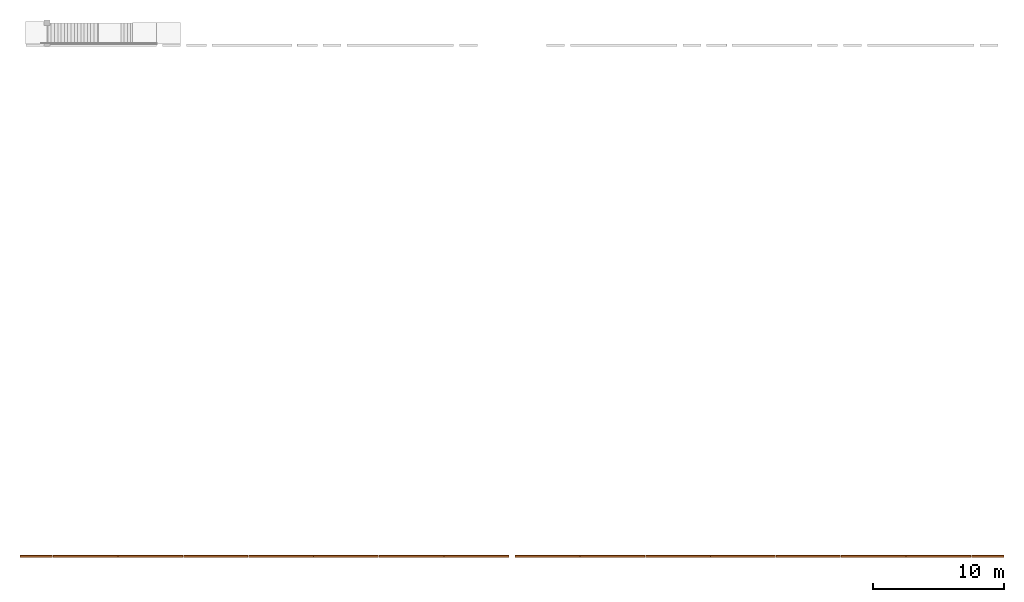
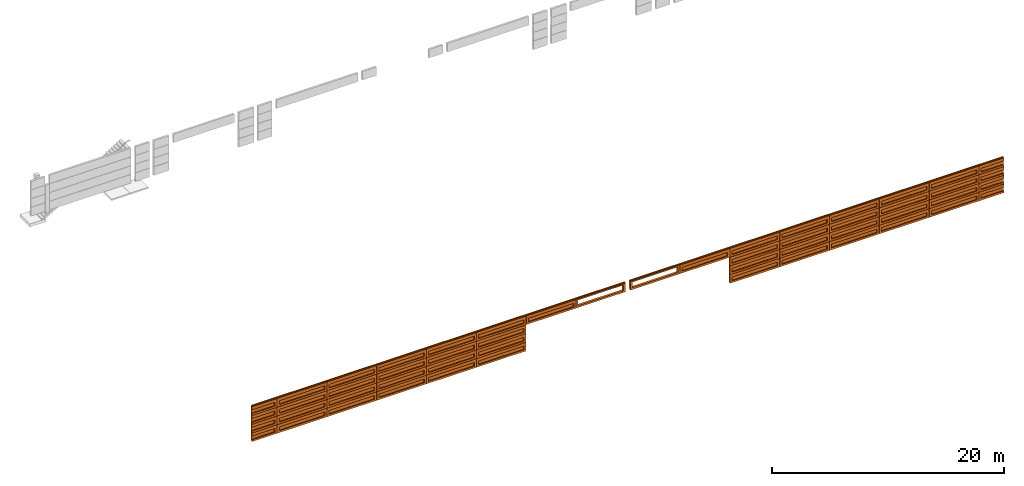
# One storey, part 5 of 5: 52 proxies.
"""IFC2X3 building model written with IfcOpenShell, lengths in millimetres."""

from ifc_helpers import new_model, entity, si_unit, converted_unit, derived_unit, direction, frame, origin, place, context, subcontext, project, spatial, faceted_brep, source, transform, mapped, material, type_object, type_shapes, element, save


model = new_model("IFC2X3")

# Units and contexts
model_context = context("Model", 3, precision=0.01, world=origin(), true_north=direction((6.12303176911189e-17, 1.0)))
body_context = subcontext(model_context, "Body", "Model", "MODEL_VIEW")
ifc_project = project(units=[si_unit("LENGTHUNIT", "METRE", prefix="MILLI"), si_unit("AREAUNIT", "SQUARE_METRE"), si_unit("VOLUMEUNIT", "CUBIC_METRE"), converted_unit("PLANEANGLEUNIT", "DEGREE", entity("IfcRatioMeasure", 0.0174532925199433), si_unit("PLANEANGLEUNIT", "RADIAN"), dimensions=[0, 0, 0, 0, 0, 0, 0]), si_unit("MASSUNIT", "GRAM", prefix="KILO"), derived_unit("MASSDENSITYUNIT", [(si_unit("MASSUNIT", "GRAM", prefix="KILO"), 1), (si_unit("LENGTHUNIT", "METRE"), -3)]), derived_unit("MOMENTOFINERTIAUNIT", [(si_unit("LENGTHUNIT", "METRE"), 4)]), si_unit("TIMEUNIT", "SECOND"), si_unit("FREQUENCYUNIT", "HERTZ"), si_unit("THERMODYNAMICTEMPERATUREUNIT", "DEGREE_CELSIUS"), derived_unit("THERMALTRANSMITTANCEUNIT", [(si_unit("MASSUNIT", "GRAM", prefix="KILO"), 1), (si_unit("THERMODYNAMICTEMPERATUREUNIT", "KELVIN"), -1), (si_unit("TIMEUNIT", "SECOND"), -3)]), derived_unit("VOLUMETRICFLOWRATEUNIT", [(si_unit("LENGTHUNIT", "METRE"), 3), (si_unit("TIMEUNIT", "SECOND"), -1)]), si_unit("ELECTRICCURRENTUNIT", "AMPERE"), si_unit("ELECTRICVOLTAGEUNIT", "VOLT"), si_unit("POWERUNIT", "WATT"), si_unit("FORCEUNIT", "NEWTON", prefix="KILO"), si_unit("ILLUMINANCEUNIT", "LUX"), si_unit("LUMINOUSFLUXUNIT", "LUMEN"), si_unit("LUMINOUSINTENSITYUNIT", "CANDELA"), derived_unit("USERDEFINED", [(si_unit("MASSUNIT", "GRAM", prefix="KILO"), -1), (si_unit("LENGTHUNIT", "METRE"), -2), (si_unit("TIMEUNIT", "SECOND"), 3), (si_unit("LUMINOUSFLUXUNIT", "LUMEN"), 1)]), derived_unit("LINEARVELOCITYUNIT", [(si_unit("LENGTHUNIT", "METRE"), 1), (si_unit("TIMEUNIT", "SECOND"), -1)]), si_unit("PRESSUREUNIT", "PASCAL"), derived_unit("USERDEFINED", [(si_unit("LENGTHUNIT", "METRE"), -2), (si_unit("MASSUNIT", "GRAM", prefix="KILO"), 1), (si_unit("TIMEUNIT", "SECOND"), -2)]), derived_unit("LINEARFORCEUNIT", [(si_unit("MASSUNIT", "GRAM", prefix="KILO"), 1), (si_unit("LENGTHUNIT", "METRE"), 1), (si_unit("TIMEUNIT", "SECOND"), -2), (si_unit("LENGTHUNIT", "METRE"), -1)]), derived_unit("PLANARFORCEUNIT", [(si_unit("MASSUNIT", "GRAM", prefix="KILO"), 1), (si_unit("LENGTHUNIT", "METRE"), 1), (si_unit("TIMEUNIT", "SECOND"), -2), (si_unit("LENGTHUNIT", "METRE"), -2)])], contexts=[model_context])

# Site, building, storey
site_placement = place(None, frame((10627.5135316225, 21939.0796949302, 0.0)))
site = spatial("IfcSite", under=ifc_project, at=site_placement, Name="Default", CompositionType="ELEMENT")
building_placement = place(site_placement, origin())
building = spatial("IfcBuilding", under=site, at=building_placement, CompositionType="ELEMENT")
storey_placement = place(building_placement, origin())
storey = spatial("IfcBuildingStorey", under=building, at=storey_placement, Name="RDC", CompositionType="ELEMENT", Elevation=0.0)

# Proxies
ifc_material = material(Name="Concrete, Precast Smooth, Light Grey")
building_element_proxy_type_1 = type_object("IfcBuildingElementProxyType", Name="Panneaux fille 18 ajoures:Panneaux fille 18 ajoures", PredefinedType="NOTDEFINED", material=ifc_material)
shared_shape_1 = source(origin(), body_context, "Body", "Brep", [
    faceted_brep([(2469.0, -101.438076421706, -51.6077760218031), (2469.0, 0.0, -60.0), (2469.0, 0.0, 849.947802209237), (2469.0, -111.86949138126, 859.004887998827), (2469.0, -132.472854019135, 910.0), (2469.0, -205.0, 910.0), (2469.0, -205.0, 0.0), (2469.0, -122.139961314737, 0.0), (-2469.0, -101.438076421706, -51.6077760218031), (-2469.0, -122.139961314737, 0.0), (-2469.0, -205.0, 0.0), (-2469.0, -205.0, 910.0), (-2469.0, -132.472854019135, 910.0), (-2469.0, -111.86949138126, 859.004887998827), (-2469.0, 0.0, 849.947802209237), (-2469.0, 0.0, -60.0), (2266.0, 0.0, 711.195062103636), (-2247.406298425, 0.0, 711.195062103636), (-2247.406298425, 0.0, 138.918268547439), (2266.0, 0.0, 138.918268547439), (-2208.456298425, -205.0, 711.195062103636), (2227.05, -205.0, 711.195062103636), (2227.05, -205.0, 138.918268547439), (-2208.456298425, -205.0, 138.918268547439)], [[[0, 1, 2, 3, 4, 5, 6, 7]], [[8, 9, 10, 11, 12, 13, 14, 15]], [[2, 1, 15, 14], [16, 17, 18, 19]], [[3, 2, 14, 13]], [[4, 3, 13, 12]], [[5, 4, 12, 11]], [[6, 5, 11, 10], [20, 21, 22, 23]], [[7, 6, 10, 9]], [[0, 7, 9, 8]], [[1, 0, 8, 15]], [[20, 17, 16, 21]], [[22, 19, 18, 23]], [[21, 16, 19, 22]], [[17, 20, 23, 18]]]),
])
type_shapes(building_element_proxy_type_1, [shared_shape_1])
proxy_1_placement = place(storey_placement, frame((23878.4864683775, -22365.8040495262, 2960.0), z_axis=(0.0, 0.0, 1.0), x_axis=(-1.0, 0.0, 0.0)))
element("IfcBuildingElementProxy", 1, at=proxy_1_placement, inside=storey, type_object=building_element_proxy_type_1, material=ifc_material, Name="Panneaux fille 18 ajoures:Panneaux fille 18 ajoures", ObjectType="Panneaux fille 18 ajoures:Panneaux fille 18 ajoures", context=body_context, shape_type="MappedRepresentation", body=[
    mapped(shared_shape_1, transform((0.0, 0.0, 0.0), scale=1.0)),
])
building_element_proxy_type_2 = type_object("IfcBuildingElementProxyType", Name="Panneaux fille 18:Panneaux fille 18", PredefinedType="NOTDEFINED", material=ifc_material)
shared_shape_2 = source(origin(), body_context, "Body", "Brep", [
    faceted_brep([(2469.0, -101.438076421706, -51.6077760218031), (2469.0, 0.0, -60.0), (2469.0, 0.0, 849.947802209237), (2469.0, -111.86949138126, 859.004887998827), (2469.0, -132.472854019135, 910.0), (2469.0, -205.0, 910.0), (2469.0, -205.0, 0.0), (2469.0, -122.139961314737, 0.0), (-2469.0, -101.438076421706, -51.6077760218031), (-2469.0, -122.139961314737, 0.0), (-2469.0, -205.0, 0.0), (-2469.0, -205.0, 910.0), (-2469.0, -132.472854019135, 910.0), (-2469.0, -111.86949138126, 859.004887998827), (-2469.0, 0.0, 849.947802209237), (-2469.0, 0.0, -60.0), (2266.0, 0.0, 540.228023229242), (-2266.21685996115, 0.0, 540.228023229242), (-2266.21685996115, 0.0, 138.918268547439), (2266.0, 0.0, 138.918268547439), (2247.39157001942, -97.9391051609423, 540.228023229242), (-2247.60842998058, -97.9391051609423, 540.228023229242), (-2247.60842998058, -97.9391051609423, 138.918268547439), (2247.39157001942, -97.9391051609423, 138.918268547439)], [[[0, 1, 2, 3, 4, 5, 6, 7]], [[8, 9, 10, 11, 12, 13, 14, 15]], [[2, 1, 15, 14], [16, 17, 18, 19]], [[3, 2, 14, 13]], [[4, 3, 13, 12]], [[5, 4, 12, 11]], [[6, 5, 11, 10]], [[7, 6, 10, 9]], [[0, 7, 9, 8]], [[1, 0, 8, 15]], [[20, 21, 17, 16]], [[22, 23, 19, 18]], [[23, 20, 16, 19]], [[21, 22, 18, 17]], [[21, 20, 23, 22]]]),
])
type_shapes(building_element_proxy_type_2, [shared_shape_2])
for number, where, z_axis, x_axis, name in (
    (2, (18920.865600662, -22365.8040495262, 2960.0), (0.0, 0.0, 1.0), (-1.0, 0.0, 0.0), "Panneaux fille 18:Panneaux fille 18"),
    (3, (13960.7458132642, -22365.8040495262, 2960.0), (0.0, 0.0, 1.0), (-1.0, 0.0, 0.0), "Panneaux fille 18:Panneaux fille 18"),
    (4, (13960.7458132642, -22365.8040495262, 2040.0), (0.0, 0.0, 1.0), (-1.0, 0.0, 0.0), "Panneaux fille 18:Panneaux fille 18"),
    (5, (13960.7458132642, -22365.8040495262, 1120.0), (0.0, 0.0, 1.0), (-1.0, 0.0, 0.0), "Panneaux fille 18:Panneaux fille 18"),
    (6, (13960.7458132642, -22365.8040495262, 200.0), (0.0, 0.0, 1.0), (-1.0, 0.0, 0.0), "Panneaux fille 18:Panneaux fille 18"),
    (7, (9000.62602586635, -22365.8040495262, 2960.0), (0.0, 0.0, 1.0), (-1.0, 0.0, 0.0), "Panneaux fille 18:Panneaux fille 18"),
    (8, (9000.62602586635, -22365.8040495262, 2040.0), (0.0, 0.0, 1.0), (-1.0, 0.0, 0.0), "Panneaux fille 18:Panneaux fille 18"),
    (9, (9000.62602586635, -22365.8040495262, 1120.0), (0.0, 0.0, 1.0), (-1.0, 0.0, 0.0), "Panneaux fille 18:Panneaux fille 18"),
    (10, (9000.62602586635, -22365.8040495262, 200.0), (0.0, 0.0, 1.0), (-1.0, 0.0, 0.0), "Panneaux fille 18:Panneaux fille 18"),
    (11, (4040.50623846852, -22365.8040495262, 2960.0), (0.0, 0.0, 1.0), (-1.0, 0.0, 0.0), "Panneaux fille 18:Panneaux fille 18"),
    (12, (4040.50623846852, -22365.8040495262, 2040.0), (0.0, 0.0, 1.0), (-1.0, 0.0, 0.0), "Panneaux fille 18:Panneaux fille 18"),
    (13, (4040.50623846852, -22365.8040495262, 1120.0), (0.0, 0.0, 1.0), (-1.0, 0.0, 0.0), "Panneaux fille 18:Panneaux fille 18"),
    (14, (4040.50623846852, -22365.8040495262, 200.0), (0.0, 0.0, 1.0), (-1.0, 0.0, 0.0), "Panneaux fille 18:Panneaux fille 18"),
    (15, (-919.613548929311, -22365.8040495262, 2960.0), (0.0, 0.0, 1.0), (-1.0, 0.0, 0.0), "Panneaux fille 18:Panneaux fille 18"),
    (16, (-919.613548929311, -22365.8040495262, 2040.0), (0.0, 0.0, 1.0), (-1.0, 0.0, 0.0), "Panneaux fille 18:Panneaux fille 18"),
    (17, (-919.613548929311, -22365.8040495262, 1120.0), (0.0, 0.0, 1.0), (-1.0, 0.0, 0.0), "Panneaux fille 18:Panneaux fille 18"),
    (18, (-919.613548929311, -22365.8040495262, 200.0), (0.0, 0.0, 1.0), (-1.0, 0.0, 0.0), "Panneaux fille 18:Panneaux fille 18"),
    (19, (-5879.73333632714, -22365.8040495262, 2960.0), (0.0, 0.0, 1.0), (-1.0, 0.0, 0.0), "Panneaux fille 18:Panneaux fille 18"),
    (20, (-5879.73333632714, -22365.8040495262, 2040.0), (0.0, 0.0, 1.0), (-1.0, 0.0, 0.0), "Panneaux fille 18:Panneaux fille 18"),
    (21, (-5879.73333632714, -22365.8040495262, 1120.0), (0.0, 0.0, 1.0), (-1.0, 0.0, 0.0), "Panneaux fille 18:Panneaux fille 18"),
    (22, (-5879.73333632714, -22365.8040495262, 200.0), (0.0, 0.0, 1.0), (-1.0, 0.0, 0.0), "Panneaux fille 18:Panneaux fille 18"),
):
    element("IfcBuildingElementProxy", number, at=place(storey_placement, frame(where, z_axis=z_axis, x_axis=x_axis)), inside=storey, type_object=building_element_proxy_type_2, material=ifc_material, Name=name, ObjectType="Panneaux fille 18:Panneaux fille 18", context=body_context, shape_type="MappedRepresentation", body=[
        mapped(shared_shape_2, transform((0.0, 0.0, 0.0), scale=1.0)),
    ])
building_element_proxy_type_3 = type_object("IfcBuildingElementProxyType", Name="Panneaux fille 18:Panneaux fille 18", PredefinedType="NOTDEFINED", material=ifc_material)
shared_shape_3 = source(origin(), body_context, "Body", "Brep", [
    faceted_brep([(2469.0, 101.438076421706, -51.6077760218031), (2469.0, 122.139961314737, 0.0), (2469.0, 205.0, 0.0), (2469.0, 205.0, 910.0), (2469.0, 132.472854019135, 910.0), (2469.0, 111.86949138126, 859.004887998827), (2469.0, 0.0, 849.947802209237), (2469.0, 0.0, -60.0), (-2469.0, 101.438076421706, -51.6077760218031), (-2469.0, 0.0, -60.0), (-2469.0, 0.0, 849.947802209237), (-2469.0, 111.86949138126, 859.004887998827), (-2469.0, 132.472854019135, 910.0), (-2469.0, 205.0, 910.0), (-2469.0, 205.0, 0.0), (-2469.0, 122.139961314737, 0.0), (2266.0, 0.0, 540.228023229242), (2266.0, 0.0, 138.918268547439), (-2266.21685996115, 0.0, 138.918268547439), (-2266.21685996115, 0.0, 540.228023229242), (2247.39157001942, 97.9391051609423, 540.228023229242), (-2247.60842998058, 97.9391051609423, 540.228023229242), (-2247.60842998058, 97.9391051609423, 138.918268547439), (2247.39157001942, 97.9391051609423, 138.918268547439)], [[[0, 1, 2, 3, 4, 5, 6, 7]], [[8, 9, 10, 11, 12, 13, 14, 15]], [[6, 10, 9, 7], [16, 17, 18, 19]], [[5, 11, 10, 6]], [[4, 12, 11, 5]], [[3, 13, 12, 4]], [[2, 14, 13, 3]], [[1, 15, 14, 2]], [[0, 8, 15, 1]], [[7, 9, 8, 0]], [[20, 16, 19, 21]], [[22, 18, 17, 23]], [[23, 17, 16, 20]], [[21, 19, 18, 22]], [[21, 22, 23, 20]]]),
])
type_shapes(building_element_proxy_type_3, [shared_shape_3])
for number, where, name in (
    (23, (34234.1073360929, -22365.8040495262, 2960.0), "Panneaux fille 18:Panneaux fille 18"),
    (24, (39194.2271234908, -22365.8040495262, 2960.0), "Panneaux fille 18:Panneaux fille 18"),
    (25, (39194.2271234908, -22365.8040495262, 2040.0), "Panneaux fille 18:Panneaux fille 18"),
    (26, (39194.2271234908, -22365.8040495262, 1120.0), "Panneaux fille 18:Panneaux fille 18"),
    (27, (39194.2271234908, -22365.8040495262, 200.0), "Panneaux fille 18:Panneaux fille 18"),
    (28, (44154.3469108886, -22365.8040495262, 2960.0), "Panneaux fille 18:Panneaux fille 18"),
    (29, (44154.3469108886, -22365.8040495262, 2040.0), "Panneaux fille 18:Panneaux fille 18"),
    (30, (44154.3469108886, -22365.8040495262, 1120.0), "Panneaux fille 18:Panneaux fille 18"),
    (31, (44154.3469108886, -22365.8040495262, 200.0), "Panneaux fille 18:Panneaux fille 18"),
    (32, (49114.4666982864, -22365.8040495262, 2960.0), "Panneaux fille 18:Panneaux fille 18"),
    (33, (49114.4666982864, -22365.8040495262, 2040.0), "Panneaux fille 18:Panneaux fille 18"),
    (34, (49114.4666982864, -22365.8040495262, 1120.0), "Panneaux fille 18:Panneaux fille 18"),
    (35, (49114.4666982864, -22365.8040495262, 200.0), "Panneaux fille 18:Panneaux fille 18"),
    (36, (54074.5864856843, -22365.8040495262, 2960.0), "Panneaux fille 18:Panneaux fille 18"),
    (37, (54074.5864856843, -22365.8040495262, 2040.0), "Panneaux fille 18:Panneaux fille 18"),
    (38, (54074.5864856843, -22365.8040495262, 1120.0), "Panneaux fille 18:Panneaux fille 18"),
    (39, (54074.5864856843, -22365.8040495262, 200.0), "Panneaux fille 18:Panneaux fille 18"),
    (40, (59034.7062730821, -22365.8040495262, 2960.0), "Panneaux fille 18:Panneaux fille 18"),
    (41, (59034.7062730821, -22365.8040495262, 2040.0), "Panneaux fille 18:Panneaux fille 18"),
    (42, (59034.7062730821, -22365.8040495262, 1120.0), "Panneaux fille 18:Panneaux fille 18"),
    (43, (59034.7062730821, -22365.8040495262, 200.0), "Panneaux fille 18:Panneaux fille 18"),
):
    element("IfcBuildingElementProxy", number, at=place(storey_placement, frame(where)), inside=storey, type_object=building_element_proxy_type_3, material=ifc_material, Name=name, ObjectType="Panneaux fille 18:Panneaux fille 18", context=body_context, shape_type="MappedRepresentation", body=[
        mapped(shared_shape_3, transform((0.0, 0.0, 0.0), scale=1.0)),
    ])
building_element_proxy_type_4 = type_object("IfcBuildingElementProxyType", Name="Panneaux fille 18 ajoures:Panneaux fille 18 ajoures", PredefinedType="NOTDEFINED", material=ifc_material)
shared_shape_4 = source(origin(), body_context, "Body", "Brep", [
    faceted_brep([(2469.0, 101.438076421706, -51.6077760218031), (2469.0, 122.139961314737, 0.0), (2469.0, 205.0, 0.0), (2469.0, 205.0, 910.0), (2469.0, 132.472854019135, 910.0), (2469.0, 111.86949138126, 859.004887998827), (2469.0, 0.0, 849.947802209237), (2469.0, 0.0, -60.0), (-2469.0, 101.438076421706, -51.6077760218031), (-2469.0, 0.0, -60.0), (-2469.0, 0.0, 849.947802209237), (-2469.0, 111.86949138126, 859.004887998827), (-2469.0, 132.472854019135, 910.0), (-2469.0, 205.0, 910.0), (-2469.0, 205.0, 0.0), (-2469.0, 122.139961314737, 0.0), (2266.0, 0.0, 711.195062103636), (2266.0, 0.0, 138.918268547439), (-2247.406298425, 0.0, 138.918268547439), (-2247.406298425, 0.0, 711.195062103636), (-2208.456298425, 205.0, 711.195062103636), (-2208.456298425, 205.0, 138.918268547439), (2227.05, 205.0, 138.918268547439), (2227.05, 205.0, 711.195062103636)], [[[0, 1, 2, 3, 4, 5, 6, 7]], [[8, 9, 10, 11, 12, 13, 14, 15]], [[16, 17, 18, 19], [6, 10, 9, 7]], [[5, 11, 10, 6]], [[4, 12, 11, 5]], [[3, 13, 12, 4]], [[2, 14, 13, 3], [20, 21, 22, 23]], [[1, 15, 14, 2]], [[0, 8, 15, 1]], [[7, 9, 8, 0]], [[20, 23, 16, 19]], [[22, 21, 18, 17]], [[23, 22, 17, 16]], [[19, 18, 21, 20]]], outer=[[True], [True], [False, True], [True], [True], [True], [True, False], [True], [True], [True], [True], [True], [True], [True]]),
])
type_shapes(building_element_proxy_type_4, [shared_shape_4])
proxy_2_placement = place(storey_placement, frame((29276.4864683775, -22365.8040495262, 2960.0)))
element("IfcBuildingElementProxy", 44, at=proxy_2_placement, inside=storey, type_object=building_element_proxy_type_4, material=ifc_material, Name="Panneaux fille 18 ajoures:Panneaux fille 18 ajoures", ObjectType="Panneaux fille 18 ajoures:Panneaux fille 18 ajoures", context=body_context, shape_type="MappedRepresentation", body=[
    mapped(shared_shape_4, transform((0.0, 0.0, 0.0), scale=1.0)),
])
building_element_proxy_type_5 = type_object("IfcBuildingElementProxyType", Name="Panneaux fille 18 les extremes:Panneaux fille 18 les extremes", PredefinedType="NOTDEFINED", material=ifc_material)
shared_shape_5 = source(origin(), body_context, "Body", "Brep", [
    faceted_brep([(0.0, -101.438076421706, -51.6077760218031), (0.0, 0.0, -60.0), (0.0, 0.0, 138.918268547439), (0.0, -97.9391051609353, 138.918268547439), (0.0, -97.9391051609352, 540.228023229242), (0.0, 0.0, 540.228023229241), (0.0, 0.0, 849.947802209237), (0.0, -111.86949138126, 859.004887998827), (0.0, -132.472854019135, 910.0), (0.0, -205.0, 910.0), (0.0, -205.0, 0.0), (0.0, -122.139961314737, 0.0), (-2471.0, -101.438076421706, -51.6077760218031), (-2471.0, -122.139961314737, 0.0), (-2471.0, -205.0, 0.0), (-2471.0, -205.0, 910.0), (-2471.0, -132.472854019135, 910.0), (-2471.0, -111.86949138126, 859.004887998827), (-2471.0, 0.0, 849.947802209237), (-2471.0, 0.0, -60.0), (-2268.21685996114, 0.0, 540.228023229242), (-2268.21685996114, 0.0, 138.918268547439), (-2249.60842998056, -97.939105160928, 540.228023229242), (-2249.60842998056, -97.939105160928, 138.918268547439)], [[[0, 1, 2, 3, 4, 5, 6, 7, 8, 9, 10, 11]], [[12, 13, 14, 15, 16, 17, 18, 19]], [[19, 18, 6, 5, 20, 21, 2, 1]], [[7, 6, 18, 17]], [[8, 7, 17, 16]], [[9, 8, 16, 15]], [[10, 9, 15, 14]], [[11, 10, 14, 13]], [[0, 11, 13, 12]], [[1, 0, 12, 19]], [[4, 22, 20, 5]], [[21, 23, 3, 2]], [[22, 23, 21, 20]], [[23, 22, 4, 3]]]),
])
type_shapes(building_element_proxy_type_5, [shared_shape_5])
for number, where, z_axis, x_axis, name in (
    (45, (-10849.7333363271, -22365.8040495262, 2960.0), (0.0, 0.0, 1.0), (-1.0, 0.0, 0.0), "Panneaux fille 18 les extremes:Panneaux fille 18 les extremes"),
    (46, (-10849.7333363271, -22365.8040495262, 2040.0), (0.0, 0.0, 1.0), (-1.0, 0.0, 0.0), "Panneaux fille 18 les extremes:Panneaux fille 18 les extremes"),
    (47, (-10849.7333363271, -22365.8040495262, 1120.0), (0.0, 0.0, 1.0), (-1.0, 0.0, 0.0), "Panneaux fille 18 les extremes:Panneaux fille 18 les extremes"),
    (48, (-10849.7333363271, -22365.8040495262, 200.0), (0.0, 0.0, 1.0), (-1.0, 0.0, 0.0), "Panneaux fille 18 les extremes:Panneaux fille 18 les extremes"),
):
    element("IfcBuildingElementProxy", number, at=place(storey_placement, frame(where, z_axis=z_axis, x_axis=x_axis)), inside=storey, type_object=building_element_proxy_type_5, material=ifc_material, Name=name, ObjectType="Panneaux fille 18 les extremes:Panneaux fille 18 les extremes", context=body_context, shape_type="MappedRepresentation", body=[
        mapped(shared_shape_5, transform((0.0, 0.0, 0.0), scale=1.0)),
    ])
building_element_proxy_type_6 = type_object("IfcBuildingElementProxyType", Name="Panneaux fille 18 les extremes:Panneaux fille 18 les extremes", PredefinedType="NOTDEFINED", material=ifc_material)
shared_shape_6 = source(origin(), body_context, "Body", "Brep", [
    faceted_brep([(0.0, 101.438076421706, -51.6077760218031), (0.0, 122.139961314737, 0.0), (0.0, 205.0, 0.0), (0.0, 205.0, 910.0), (0.0, 132.472854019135, 910.0), (0.0, 111.86949138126, 859.004887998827), (0.0, 0.0, 849.947802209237), (0.0, 0.0, 540.228023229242), (0.0, 97.9391051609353, 540.228023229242), (0.0, 97.9391051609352, 138.918268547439), (0.0, 0.0, 138.918268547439), (0.0, 0.0, -60.0), (-2471.0, 101.438076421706, -51.6077760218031), (-2471.0, 0.0, -60.0), (-2471.0, 0.0, 849.947802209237), (-2471.0, 111.86949138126, 859.004887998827), (-2471.0, 132.472854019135, 910.0), (-2471.0, 205.0, 910.0), (-2471.0, 205.0, 0.0), (-2471.0, 122.139961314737, 0.0), (-2268.21685996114, 0.0, 138.918268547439), (-2268.21685996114, 0.0, 540.228023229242), (-2249.60842998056, 97.939105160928, 540.228023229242), (-2249.60842998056, 97.939105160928, 138.918268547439)], [[[0, 1, 2, 3, 4, 5, 6, 7, 8, 9, 10, 11]], [[12, 13, 14, 15, 16, 17, 18, 19]], [[13, 11, 10, 20, 21, 7, 6, 14]], [[5, 15, 14, 6]], [[4, 16, 15, 5]], [[3, 17, 16, 4]], [[2, 18, 17, 3]], [[1, 19, 18, 2]], [[0, 12, 19, 1]], [[11, 13, 12, 0]], [[8, 7, 21, 22]], [[20, 10, 9, 23]], [[22, 21, 20, 23]], [[23, 9, 8, 22]]]),
])
type_shapes(building_element_proxy_type_6, [shared_shape_6])
for number, where, name in (
    (49, (64004.7062730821, -22365.8040495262, 2960.0), "Panneaux fille 18 les extremes:Panneaux fille 18 les extremes"),
    (50, (64004.7062730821, -22365.8040495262, 2040.0), "Panneaux fille 18 les extremes:Panneaux fille 18 les extremes"),
    (51, (64004.7062730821, -22365.8040495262, 1120.0), "Panneaux fille 18 les extremes:Panneaux fille 18 les extremes"),
    (52, (64004.7062730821, -22365.8040495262, 200.0), "Panneaux fille 18 les extremes:Panneaux fille 18 les extremes"),
):
    element("IfcBuildingElementProxy", number, at=place(storey_placement, frame(where)), inside=storey, type_object=building_element_proxy_type_6, material=ifc_material, Name=name, ObjectType="Panneaux fille 18 les extremes:Panneaux fille 18 les extremes", context=body_context, shape_type="MappedRepresentation", body=[
        mapped(shared_shape_6, transform((0.0, 0.0, 0.0), scale=1.0)),
    ])

save(model, "model.ifc")
